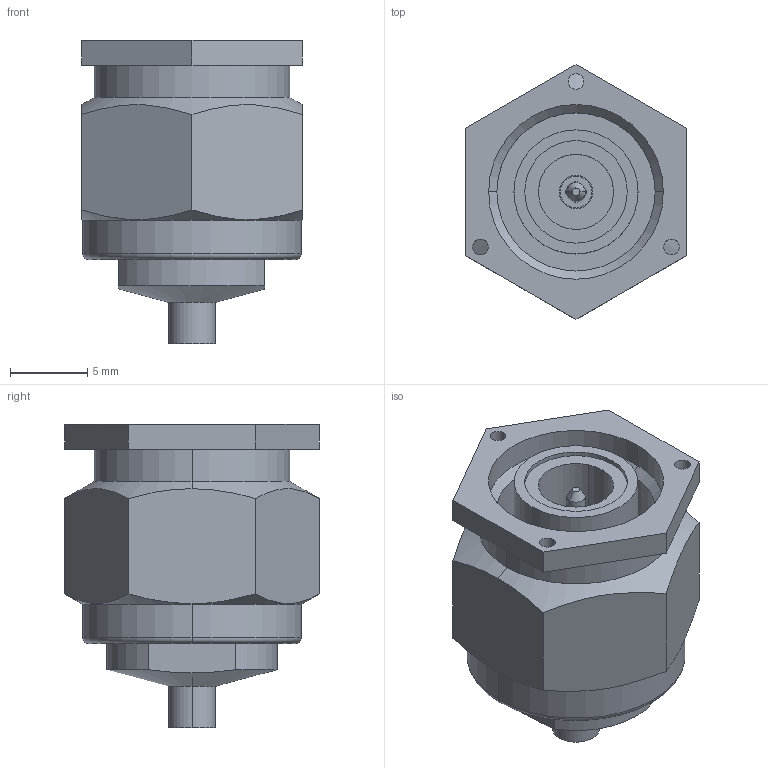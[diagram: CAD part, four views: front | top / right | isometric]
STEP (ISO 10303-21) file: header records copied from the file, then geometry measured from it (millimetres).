
FILE_DESCRIPTION (( 'STEP AP203' ), '1' );
FILE_NAME ('SF4501-6023.STEP', '2016-04-28T12:51:27', ( '' ), ( '' ), 'SwSTEP 2.0', 'SolidWorks 2015', '' );
FILE_SCHEMA (( 'CONFIG_CONTROL_DESIGN' ));
Length unit declared in the file: inch
Products named in the file (1): SF4501-6023
Bounding box: 14.27 x 16.48 x 19.61 mm (x, y, z)
Volume: 2028.9 mm3; surface area: 2338.6 mm2
Topology: 1 solids, 1 shells, 98 faces, 226 edges, 142 vertices
Faces by surface type: cylinder 45, plane 35, cone 16, torus 2
Entity records: 2987 total; most frequent: CARTESIAN_POINT 611, DIRECTION 510, ORIENTED_EDGE 452, EDGE_CURVE 226, AXIS2_PLACEMENT_3D 205, VERTEX_POINT 142, EDGE_LOOP 118, CIRCLE 106
